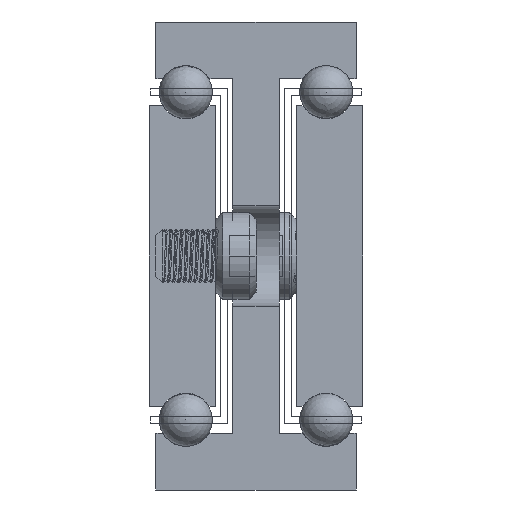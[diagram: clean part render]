
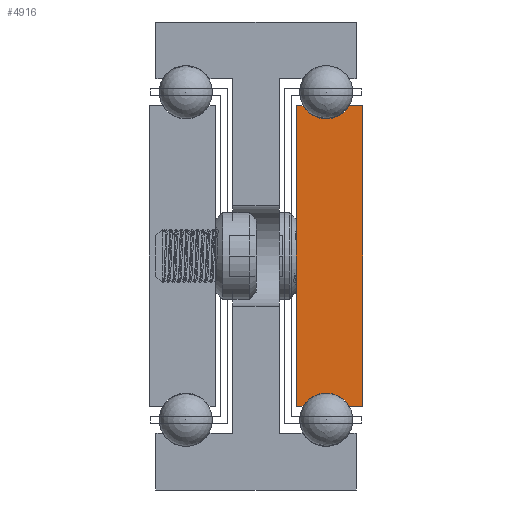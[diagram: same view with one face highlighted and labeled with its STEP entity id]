
A CAD part, front view. The second image highlights one B-rep face of the part: STEP entity #4916.
In plain terms, the highlighted planar face has unit normal (0, -1, 0).
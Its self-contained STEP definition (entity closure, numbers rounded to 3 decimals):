
#748=PLANE('',#5320);
#850=FACE_OUTER_BOUND('',#1132,.T.);
#1132=EDGE_LOOP('',(#4024,#4025,#4026,#4027,#4028,#4029,#4030,#4031));
#1672=LINE('',#7664,#1884);
#1676=LINE('',#7672,#1888);
#1680=LINE('',#7684,#1892);
#1683=LINE('',#7690,#1895);
#1686=LINE('',#7696,#1898);
#1690=LINE('',#7707,#1902);
#1884=VECTOR('',#6124,1.);
#1888=VECTOR('',#6130,1.);
#1892=VECTOR('',#6142,1.);
#1895=VECTOR('',#6147,1.);
#1898=VECTOR('',#6152,1.);
#1902=VECTOR('',#6164,1.);
#2060=CIRCLE('',#5311,4.);
#2062=CIRCLE('',#5317,4.);
#2524=VERTEX_POINT('',#7662);
#2525=VERTEX_POINT('',#7663);
#2528=VERTEX_POINT('',#7671);
#2530=VERTEX_POINT('',#7677);
#2532=VERTEX_POINT('',#7683);
#2534=VERTEX_POINT('',#7689);
#2536=VERTEX_POINT('',#7695);
#2538=VERTEX_POINT('',#7701);
#3230=EDGE_CURVE('',#2524,#2525,#1672,.T.);
#3234=EDGE_CURVE('',#2525,#2528,#1676,.T.);
#3237=EDGE_CURVE('',#2528,#2530,#2060,.T.);
#3240=EDGE_CURVE('',#2530,#2532,#1680,.T.);
#3243=EDGE_CURVE('',#2532,#2534,#1683,.T.);
#3246=EDGE_CURVE('',#2534,#2536,#1686,.T.);
#3249=EDGE_CURVE('',#2536,#2538,#2062,.T.);
#3252=EDGE_CURVE('',#2538,#2524,#1690,.T.);
#4024=ORIENTED_EDGE('',*,*,#3252,.T.);
#4025=ORIENTED_EDGE('',*,*,#3230,.T.);
#4026=ORIENTED_EDGE('',*,*,#3234,.T.);
#4027=ORIENTED_EDGE('',*,*,#3237,.T.);
#4028=ORIENTED_EDGE('',*,*,#3240,.T.);
#4029=ORIENTED_EDGE('',*,*,#3243,.T.);
#4030=ORIENTED_EDGE('',*,*,#3246,.T.);
#4031=ORIENTED_EDGE('',*,*,#3249,.T.);
#4916=ADVANCED_FACE('',(#850),#748,.F.);
#5311=AXIS2_PLACEMENT_3D('',#7678,#6135,#6136);
#5317=AXIS2_PLACEMENT_3D('',#7702,#6157,#6158);
#5320=AXIS2_PLACEMENT_3D('',#7709,#6166,#6167);
#6124=DIRECTION('',(0.,0.,1.));
#6130=DIRECTION('',(-1.,0.,0.));
#6135=DIRECTION('center_axis',(0.,1.,0.));
#6136=DIRECTION('ref_axis',(0.866,0.,-0.5));
#6142=DIRECTION('',(-1.,0.,0.));
#6147=DIRECTION('',(0.,0.,-1.));
#6152=DIRECTION('',(1.,0.,0.));
#6157=DIRECTION('center_axis',(0.,1.,0.));
#6158=DIRECTION('ref_axis',(-0.866,0.,0.5));
#6164=DIRECTION('',(1.,0.,0.));
#6166=DIRECTION('center_axis',(0.,1.,0.));
#6167=DIRECTION('ref_axis',(-1.,0.,0.));
#7662=CARTESIAN_POINT('',(-1003.095,-795.892,977.5));
#7663=CARTESIAN_POINT('',(-1003.095,-795.892,1022.5));
#7664=CARTESIAN_POINT('',(-1003.095,-795.892,977.5));
#7671=CARTESIAN_POINT('',(-1005.131,-795.892,1022.5));
#7672=CARTESIAN_POINT('',(-1003.095,-795.892,1022.5));
#7677=CARTESIAN_POINT('',(-1012.059,-795.892,1022.5));
#7678=CARTESIAN_POINT('Origin',(-1008.595,-795.892,1024.5));
#7683=CARTESIAN_POINT('',(-1013.095,-795.892,1022.5));
#7684=CARTESIAN_POINT('',(-1012.059,-795.892,1022.5));
#7689=CARTESIAN_POINT('',(-1013.095,-795.892,977.5));
#7690=CARTESIAN_POINT('',(-1013.095,-795.892,1022.5));
#7695=CARTESIAN_POINT('',(-1012.059,-795.892,977.5));
#7696=CARTESIAN_POINT('',(-1013.095,-795.892,977.5));
#7701=CARTESIAN_POINT('',(-1005.131,-795.892,977.5));
#7702=CARTESIAN_POINT('Origin',(-1008.595,-795.892,975.5));
#7707=CARTESIAN_POINT('',(-1005.131,-795.892,977.5));
#7709=CARTESIAN_POINT('Origin',(-1008.089,-795.892,1000.));
